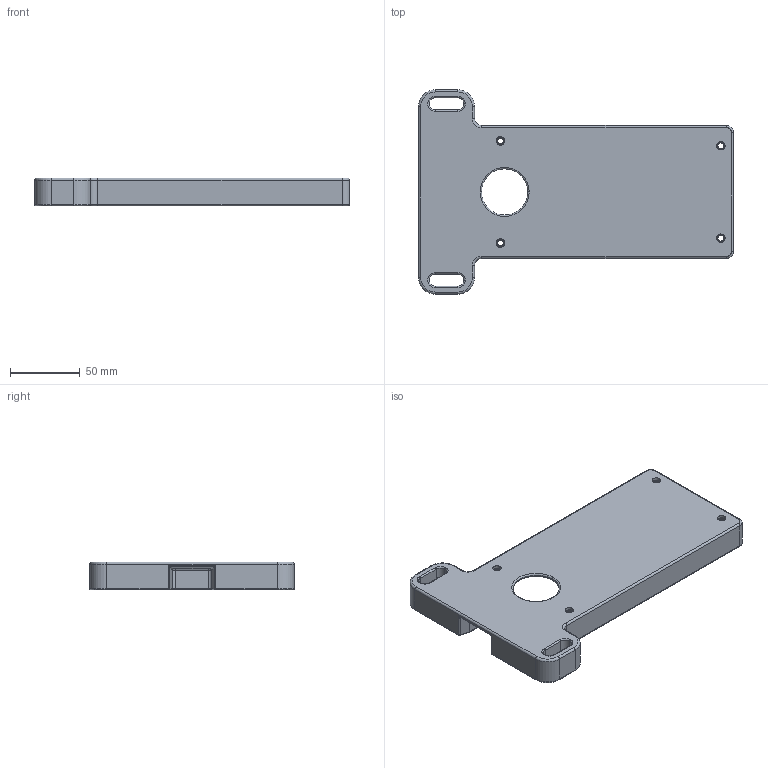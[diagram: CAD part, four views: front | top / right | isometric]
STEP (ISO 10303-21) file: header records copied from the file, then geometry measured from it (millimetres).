
FILE_DESCRIPTION (( 'STEP AP203' ), '1' );
FILE_NAME ('UGB4-SS Mounting Plate (STEP Format).STEP', '2017-08-23T09:29:55', ( '' ), ( '' ), 'SwSTEP 2.0', 'SolidWorks 2015', '' );
FILE_SCHEMA (( 'CONFIG_CONTROL_DESIGN' ));
Length unit declared in the file: millimetre
Products named in the file (1): UGB4-SS Mounting Plate (STEP Format)
Bounding box: 225 x 146 x 20 mm (x, y, z)
Volume: 127040.8 mm3; surface area: 78899.6 mm2
Topology: 1 solids, 1 shells, 370 faces, 853 edges, 464 vertices
Faces by surface type: cylinder 174, torus 84, plane 62, bspline 28, cone 16, sphere 6
Entity records: 11258 total; most frequent: CARTESIAN_POINT 3000, DIRECTION 1861, ORIENTED_EDGE 1650, EDGE_CURVE 825, AXIS2_PLACEMENT_3D 757, VERTEX_POINT 464, CIRCLE 414, EDGE_LOOP 391
